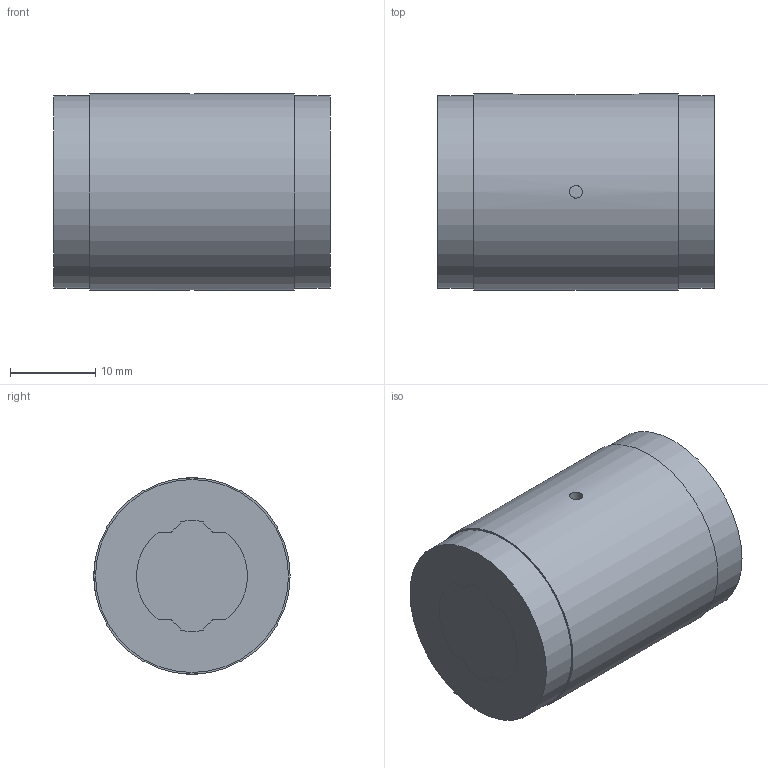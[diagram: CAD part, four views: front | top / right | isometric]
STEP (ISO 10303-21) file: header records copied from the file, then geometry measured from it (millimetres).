
FILE_DESCRIPTION(/* description */ ('STEP AP203'),/* implementation_level */ '2;1');
FILE_NAME(/* name */ 'LT13X+32.4L(00)',/* time_stamp */ '2024-05-28T07:07:54+02:00',/* author */ ('License CC BY-ND 4.0'),/* organization */ ('CADENAS'),/* preprocessor_version */ 'ST-DEVELOPER v19.3',/* originating_system */ 'PARTsolutions',/* authorisation */ ' ');
FILE_SCHEMA (('CONFIG_CONTROL_DESIGN'));
Length unit declared in the file: millimetre
Products named in the file (3): LT13X+32.4L(00); 1LT13X 32.4Shaft; 1LT13X Cylindar
Assembly tree (2 placements, depth 2):
  LT13X+32.4L(00)
    1LT13X 32.4Shaft
    1LT13X Cylindar
Bounding box: 32.4 x 23 x 23 mm (x, y, z)
Volume: 13260.2 mm3; surface area: 5983.2 mm2
Topology: 2 solids, 2 shells, 64 faces, 173 edges, 115 vertices
Faces by surface type: cylinder 39, plane 25
Full cylindrical faces by diameter (mm): 1.5 x2, 22.6 x2, 23 x1
Entity records: 2129 total; most frequent: CARTESIAN_POINT 399, DIRECTION 366, ORIENTED_EDGE 332, EDGE_CURVE 166, AXIS2_PLACEMENT_3D 139, VERTEX_POINT 114, LINE 88, VECTOR 88
